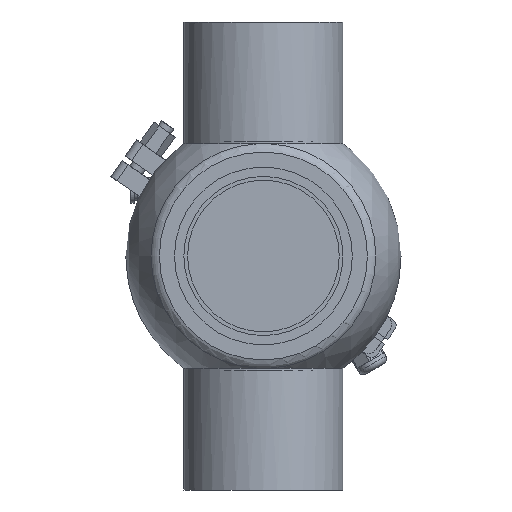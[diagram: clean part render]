
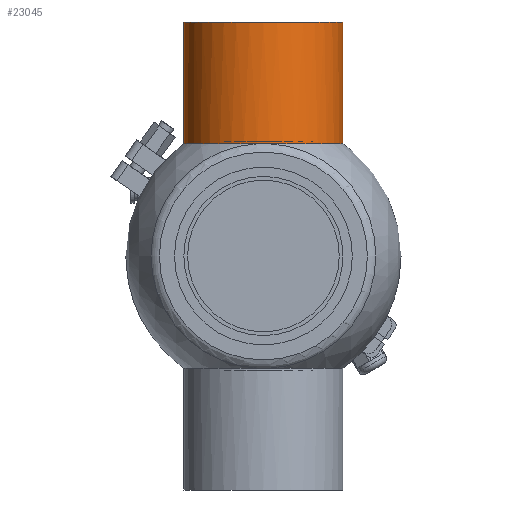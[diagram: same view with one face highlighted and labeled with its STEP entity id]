
A CAD part, front view. The second image highlights one B-rep face of the part: STEP entity #23045.
In plain terms, the highlighted cylindrical face has radius 42.5 mm (diameter 85 mm), a full revolution.
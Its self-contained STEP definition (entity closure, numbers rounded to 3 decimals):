
#1583 = CARTESIAN_POINT ( 'NONE',  ( 59.965, -42.5, 1.129 ) ) ;
#2928 = CARTESIAN_POINT ( 'NONE',  ( 60., 42.5, 0.666 ) ) ;
#4295 = CARTESIAN_POINT ( 'NONE',  ( 59.967, 42.453, 2. ) ) ;
#5531 = CARTESIAN_POINT ( 'NONE',  ( 59.967, -42.412, -2.797 ) ) ;
#6343 = DIRECTION ( 'NONE',  ( -1., 0., 0. ) ) ;
#8479 = VERTEX_POINT ( 'NONE', #46422 ) ;
#8500 = VERTEX_POINT ( 'NONE', #29920 ) ;
#12480 = DIRECTION ( 'NONE',  ( 1., 0., 0. ) ) ;
#12841 = EDGE_CURVE ( 'NONE', #8500, #50669, #47225, .T. ) ;
#13008 = DIRECTION ( 'NONE',  ( -1., 0., 0. ) ) ;
#14497 = CARTESIAN_POINT ( 'NONE',  ( 59.966, -42.445, -2.238 ) ) ;
#16219 = DIRECTION ( 'NONE',  ( 0., 0., 1. ) ) ;
#16478 = ORIENTED_EDGE ( 'NONE', *, *, #54253, .T. ) ;
#16582 = B_SPLINE_CURVE_WITH_KNOTS ( 'NONE', 3,
 ( #34222, #29619, #1583, #34523, #19720, #14497, #5531, #42890 ),
 .UNSPECIFIED., .F., .F.,
 ( 4, 2, 2, 4 ),
 ( 0.025, 0.028, 0.03, 0.032 ),
 .UNSPECIFIED. ) ;
#17233 = CIRCLE ( 'NONE', #42895, 42.5 ) ;
#17371 = CARTESIAN_POINT ( 'NONE',  ( 59.967, 42.453, 2. ) ) ;
#19279 = EDGE_CURVE ( 'NONE', #50669, #39701, #17233, .T. ) ;
#19720 = CARTESIAN_POINT ( 'NONE',  ( 59.965, -42.489, -1.116 ) ) ;
#20886 = AXIS2_PLACEMENT_3D ( 'NONE', #51299, #13008, #22235 ) ;
#21107 = CARTESIAN_POINT ( 'NONE',  ( 59.989, 42.484, 1.336 ) ) ;
#22235 = DIRECTION ( 'NONE',  ( 0., 0., 1. ) ) ;
#22965 = EDGE_CURVE ( 'NONE', #27913, #8500, #49554, .T. ) ;
#23045 = ADVANCED_FACE ( 'NONE', ( #30402, #25430 ), #40288, .T. ) ;
#25430 = FACE_OUTER_BOUND ( 'NONE', #35768, .T. ) ;
#25710 = CARTESIAN_POINT ( 'NONE',  ( 59.967, 42.453, -2. ) ) ;
#27913 = VERTEX_POINT ( 'NONE', #34652 ) ;
#28559 = EDGE_LOOP ( 'NONE', ( #59644, #16478, #29327, #57904 ) ) ;
#29327 = ORIENTED_EDGE ( 'NONE', *, *, #22965, .T. ) ;
#29619 = CARTESIAN_POINT ( 'NONE',  ( 59.967, -42.455, 2.244 ) ) ;
#29920 = CARTESIAN_POINT ( 'NONE',  ( 59.967, 42.453, -2. ) ) ;
#30402 = FACE_OUTER_BOUND ( 'NONE', #28559, .T. ) ;
#33076 = DIRECTION ( 'NONE',  ( 1., 0., 0. ) ) ;
#34222 = CARTESIAN_POINT ( 'NONE',  ( 59.967, -42.367, 3.354 ) ) ;
#34523 = CARTESIAN_POINT ( 'NONE',  ( 59.965, -42.5, -0.553 ) ) ;
#34652 = CARTESIAN_POINT ( 'NONE',  ( 59.967, -42.367, -3.354 ) ) ;
#35034 = CARTESIAN_POINT ( 'NONE',  ( 0., 0., 0. ) ) ;
#35768 = EDGE_LOOP ( 'NONE', ( #59534 ) ) ;
#38016 = CARTESIAN_POINT ( 'NONE',  ( 59.967, 0., 0. ) ) ;
#39383 = CARTESIAN_POINT ( 'NONE',  ( 59.967, 0., 0. ) ) ;
#39701 = VERTEX_POINT ( 'NONE', #55185 ) ;
#40288 = CYLINDRICAL_SURFACE ( 'NONE', #57463, 42.5 ) ;
#42890 = CARTESIAN_POINT ( 'NONE',  ( 59.967, -42.367, -3.354 ) ) ;
#42895 = AXIS2_PLACEMENT_3D ( 'NONE', #38016, #33076, #47907 ) ;
#45160 = CARTESIAN_POINT ( 'NONE',  ( 60., 42.5, -0.672 ) ) ;
#46422 = CARTESIAN_POINT ( 'NONE',  ( 125., 0., 42.5 ) ) ;
#47225 = B_SPLINE_CURVE_WITH_KNOTS ( 'NONE', 3,
 ( #25710, #59431, #45160, #2928, #21107, #17371 ),
 .UNSPECIFIED., .F., .F.,
 ( 4, 2, 4 ),
 ( 0.024, 0.026, 0.028 ),
 .UNSPECIFIED. ) ;
#47907 = DIRECTION ( 'NONE',  ( 0., 0., 1. ) ) ;
#49249 = DIRECTION ( 'NONE',  ( 0., 0., 1. ) ) ;
#49554 = CIRCLE ( 'NONE', #52523, 42.5 ) ;
#50669 = VERTEX_POINT ( 'NONE', #4295 ) ;
#51299 = CARTESIAN_POINT ( 'NONE',  ( 125., 0., 0. ) ) ;
#52523 = AXIS2_PLACEMENT_3D ( 'NONE', #39383, #12480, #16219 ) ;
#53474 = CIRCLE ( 'NONE', #20886, 42.5 ) ;
#54253 = EDGE_CURVE ( 'NONE', #39701, #27913, #16582, .T. ) ;
#55185 = CARTESIAN_POINT ( 'NONE',  ( 59.967, -42.367, 3.354 ) ) ;
#57463 = AXIS2_PLACEMENT_3D ( 'NONE', #35034, #6343, #49249 ) ;
#57904 = ORIENTED_EDGE ( 'NONE', *, *, #12841, .T. ) ;
#59075 = EDGE_CURVE ( 'NONE', #8479, #8479, #53474, .T. ) ;
#59431 = CARTESIAN_POINT ( 'NONE',  ( 59.989, 42.484, -1.338 ) ) ;
#59534 = ORIENTED_EDGE ( 'NONE', *, *, #59075, .T. ) ;
#59644 = ORIENTED_EDGE ( 'NONE', *, *, #19279, .T. ) ;
